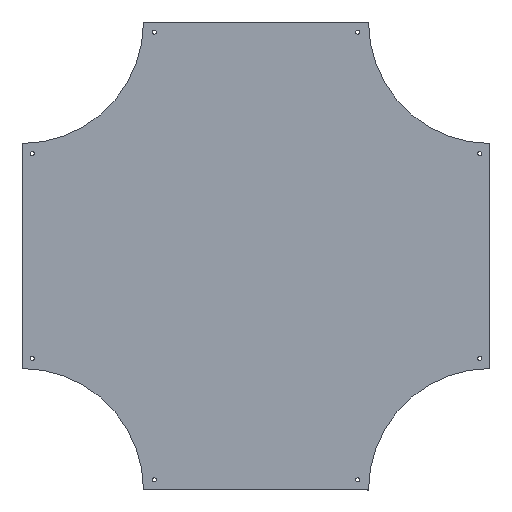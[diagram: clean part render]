
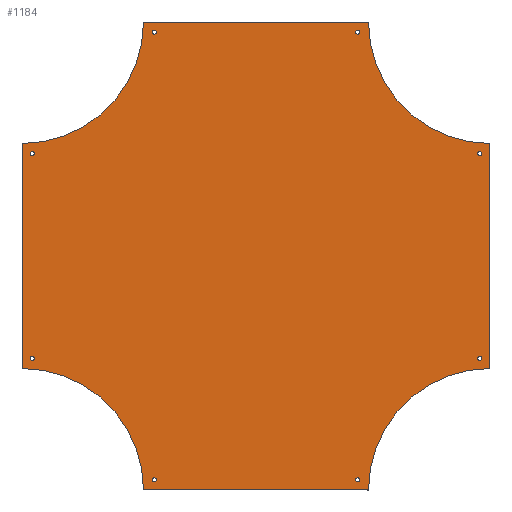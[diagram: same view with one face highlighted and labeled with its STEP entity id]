
A CAD part, top view. The second image highlights one B-rep face of the part: STEP entity #1184.
In plain terms, the highlighted planar face has unit normal (0, 0, 1).
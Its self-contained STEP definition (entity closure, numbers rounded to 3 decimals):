
#86=FACE_BOUND('',#177,.T.);
#87=FACE_BOUND('',#178,.T.);
#88=FACE_BOUND('',#179,.T.);
#89=FACE_BOUND('',#180,.T.);
#90=FACE_BOUND('',#181,.T.);
#91=FACE_BOUND('',#182,.T.);
#92=FACE_BOUND('',#183,.T.);
#93=FACE_BOUND('',#184,.T.);
#102=FACE_OUTER_BOUND('',#176,.T.);
#176=EDGE_LOOP('',(#810,#811,#812,#813,#814,#815,#816,#817));
#177=EDGE_LOOP('',(#818,#819));
#178=EDGE_LOOP('',(#820,#821));
#179=EDGE_LOOP('',(#822,#823));
#180=EDGE_LOOP('',(#824,#825));
#181=EDGE_LOOP('',(#826,#827));
#182=EDGE_LOOP('',(#828,#829));
#183=EDGE_LOOP('',(#830,#831));
#184=EDGE_LOOP('',(#832,#833));
#266=CIRCLE('',#1270,298.5);
#267=CIRCLE('',#1271,298.5);
#268=CIRCLE('',#1272,298.5);
#269=CIRCLE('',#1273,298.5);
#270=CIRCLE('',#1274,5.);
#271=CIRCLE('',#1275,5.);
#272=CIRCLE('',#1276,5.);
#273=CIRCLE('',#1277,5.);
#274=CIRCLE('',#1278,5.);
#275=CIRCLE('',#1279,5.);
#276=CIRCLE('',#1280,5.);
#277=CIRCLE('',#1281,5.);
#278=CIRCLE('',#1282,5.);
#279=CIRCLE('',#1283,5.);
#280=CIRCLE('',#1284,5.);
#281=CIRCLE('',#1285,5.);
#282=CIRCLE('',#1286,5.);
#283=CIRCLE('',#1287,5.);
#284=CIRCLE('',#1288,5.);
#285=CIRCLE('',#1289,5.);
#338=LINE('',#1839,#434);
#339=LINE('',#1843,#435);
#340=LINE('',#1847,#436);
#341=LINE('',#1851,#437);
#434=VECTOR('',#1430,304.8);
#435=VECTOR('',#1433,304.8);
#436=VECTOR('',#1436,304.8);
#437=VECTOR('',#1439,304.8);
#530=VERTEX_POINT('',#1837);
#531=VERTEX_POINT('',#1838);
#532=VERTEX_POINT('',#1840);
#533=VERTEX_POINT('',#1842);
#534=VERTEX_POINT('',#1844);
#535=VERTEX_POINT('',#1846);
#536=VERTEX_POINT('',#1848);
#537=VERTEX_POINT('',#1850);
#538=VERTEX_POINT('',#1853);
#539=VERTEX_POINT('',#1854);
#540=VERTEX_POINT('',#1857);
#541=VERTEX_POINT('',#1858);
#542=VERTEX_POINT('',#1861);
#543=VERTEX_POINT('',#1862);
#544=VERTEX_POINT('',#1865);
#545=VERTEX_POINT('',#1866);
#546=VERTEX_POINT('',#1869);
#547=VERTEX_POINT('',#1870);
#548=VERTEX_POINT('',#1873);
#549=VERTEX_POINT('',#1874);
#550=VERTEX_POINT('',#1877);
#551=VERTEX_POINT('',#1878);
#552=VERTEX_POINT('',#1881);
#553=VERTEX_POINT('',#1882);
#642=EDGE_CURVE('',#530,#531,#338,.T.);
#643=EDGE_CURVE('',#531,#532,#266,.T.);
#644=EDGE_CURVE('',#532,#533,#339,.T.);
#645=EDGE_CURVE('',#533,#534,#267,.T.);
#646=EDGE_CURVE('',#534,#535,#340,.T.);
#647=EDGE_CURVE('',#535,#536,#268,.T.);
#648=EDGE_CURVE('',#536,#537,#341,.T.);
#649=EDGE_CURVE('',#537,#530,#269,.T.);
#650=EDGE_CURVE('',#538,#539,#270,.T.);
#651=EDGE_CURVE('',#539,#538,#271,.T.);
#652=EDGE_CURVE('',#540,#541,#272,.T.);
#653=EDGE_CURVE('',#541,#540,#273,.T.);
#654=EDGE_CURVE('',#542,#543,#274,.T.);
#655=EDGE_CURVE('',#543,#542,#275,.T.);
#656=EDGE_CURVE('',#544,#545,#276,.T.);
#657=EDGE_CURVE('',#545,#544,#277,.T.);
#658=EDGE_CURVE('',#546,#547,#278,.T.);
#659=EDGE_CURVE('',#547,#546,#279,.T.);
#660=EDGE_CURVE('',#548,#549,#280,.T.);
#661=EDGE_CURVE('',#549,#548,#281,.T.);
#662=EDGE_CURVE('',#550,#551,#282,.T.);
#663=EDGE_CURVE('',#551,#550,#283,.T.);
#664=EDGE_CURVE('',#552,#553,#284,.T.);
#665=EDGE_CURVE('',#553,#552,#285,.T.);
#810=ORIENTED_EDGE('',*,*,#642,.T.);
#811=ORIENTED_EDGE('',*,*,#643,.T.);
#812=ORIENTED_EDGE('',*,*,#644,.T.);
#813=ORIENTED_EDGE('',*,*,#645,.T.);
#814=ORIENTED_EDGE('',*,*,#646,.T.);
#815=ORIENTED_EDGE('',*,*,#647,.T.);
#816=ORIENTED_EDGE('',*,*,#648,.T.);
#817=ORIENTED_EDGE('',*,*,#649,.T.);
#818=ORIENTED_EDGE('',*,*,#650,.T.);
#819=ORIENTED_EDGE('',*,*,#651,.T.);
#820=ORIENTED_EDGE('',*,*,#652,.T.);
#821=ORIENTED_EDGE('',*,*,#653,.T.);
#822=ORIENTED_EDGE('',*,*,#654,.T.);
#823=ORIENTED_EDGE('',*,*,#655,.T.);
#824=ORIENTED_EDGE('',*,*,#656,.T.);
#825=ORIENTED_EDGE('',*,*,#657,.T.);
#826=ORIENTED_EDGE('',*,*,#658,.T.);
#827=ORIENTED_EDGE('',*,*,#659,.T.);
#828=ORIENTED_EDGE('',*,*,#660,.T.);
#829=ORIENTED_EDGE('',*,*,#661,.T.);
#830=ORIENTED_EDGE('',*,*,#662,.T.);
#831=ORIENTED_EDGE('',*,*,#663,.T.);
#832=ORIENTED_EDGE('',*,*,#664,.T.);
#833=ORIENTED_EDGE('',*,*,#665,.T.);
#1146=PLANE('',#1269);
#1184=ADVANCED_FACE('',(#102,#86,#87,#88,#89,#90,#91,#92,#93),#1146,.T.);
#1269=AXIS2_PLACEMENT_3D('',#1836,#1428,#1429);
#1270=AXIS2_PLACEMENT_3D('',#1841,#1431,#1432);
#1271=AXIS2_PLACEMENT_3D('',#1845,#1434,#1435);
#1272=AXIS2_PLACEMENT_3D('',#1849,#1437,#1438);
#1273=AXIS2_PLACEMENT_3D('',#1852,#1440,#1441);
#1274=AXIS2_PLACEMENT_3D('',#1855,#1442,#1443);
#1275=AXIS2_PLACEMENT_3D('',#1856,#1444,#1445);
#1276=AXIS2_PLACEMENT_3D('',#1859,#1446,#1447);
#1277=AXIS2_PLACEMENT_3D('',#1860,#1448,#1449);
#1278=AXIS2_PLACEMENT_3D('',#1863,#1450,#1451);
#1279=AXIS2_PLACEMENT_3D('',#1864,#1452,#1453);
#1280=AXIS2_PLACEMENT_3D('',#1867,#1454,#1455);
#1281=AXIS2_PLACEMENT_3D('',#1868,#1456,#1457);
#1282=AXIS2_PLACEMENT_3D('',#1871,#1458,#1459);
#1283=AXIS2_PLACEMENT_3D('',#1872,#1460,#1461);
#1284=AXIS2_PLACEMENT_3D('',#1875,#1462,#1463);
#1285=AXIS2_PLACEMENT_3D('',#1876,#1464,#1465);
#1286=AXIS2_PLACEMENT_3D('',#1879,#1466,#1467);
#1287=AXIS2_PLACEMENT_3D('',#1880,#1468,#1469);
#1288=AXIS2_PLACEMENT_3D('',#1883,#1470,#1471);
#1289=AXIS2_PLACEMENT_3D('',#1884,#1472,#1473);
#1428=DIRECTION('center_axis',(0.,0.,1.));
#1429=DIRECTION('ref_axis',(0.,-1.,0.));
#1430=DIRECTION('',(0.,1.,0.));
#1431=DIRECTION('center_axis',(0.,0.,-1.));
#1432=DIRECTION('ref_axis',(1.,0.,0.));
#1433=DIRECTION('',(-1.,0.,0.));
#1434=DIRECTION('center_axis',(0.,0.,-1.));
#1435=DIRECTION('ref_axis',(1.,0.,0.));
#1436=DIRECTION('',(0.,-1.,0.));
#1437=DIRECTION('center_axis',(0.,0.,-1.));
#1438=DIRECTION('ref_axis',(1.,0.,0.));
#1439=DIRECTION('',(1.,0.,0.));
#1440=DIRECTION('center_axis',(0.,0.,-1.));
#1441=DIRECTION('ref_axis',(1.,0.,0.));
#1442=DIRECTION('center_axis',(0.,0.,-1.));
#1443=DIRECTION('ref_axis',(1.,0.,0.));
#1444=DIRECTION('center_axis',(0.,0.,-1.));
#1445=DIRECTION('ref_axis',(1.,0.,0.));
#1446=DIRECTION('center_axis',(0.,0.,-1.));
#1447=DIRECTION('ref_axis',(1.,0.,0.));
#1448=DIRECTION('center_axis',(0.,0.,-1.));
#1449=DIRECTION('ref_axis',(1.,0.,0.));
#1450=DIRECTION('center_axis',(0.,0.,-1.));
#1451=DIRECTION('ref_axis',(1.,0.,0.));
#1452=DIRECTION('center_axis',(0.,0.,-1.));
#1453=DIRECTION('ref_axis',(1.,0.,0.));
#1454=DIRECTION('center_axis',(0.,0.,-1.));
#1455=DIRECTION('ref_axis',(1.,0.,0.));
#1456=DIRECTION('center_axis',(0.,0.,-1.));
#1457=DIRECTION('ref_axis',(1.,0.,0.));
#1458=DIRECTION('center_axis',(0.,0.,-1.));
#1459=DIRECTION('ref_axis',(1.,0.,0.));
#1460=DIRECTION('center_axis',(0.,0.,-1.));
#1461=DIRECTION('ref_axis',(1.,0.,0.));
#1462=DIRECTION('center_axis',(0.,0.,-1.));
#1463=DIRECTION('ref_axis',(1.,0.,0.));
#1464=DIRECTION('center_axis',(0.,0.,-1.));
#1465=DIRECTION('ref_axis',(1.,0.,0.));
#1466=DIRECTION('center_axis',(0.,0.,-1.));
#1467=DIRECTION('ref_axis',(1.,0.,0.));
#1468=DIRECTION('center_axis',(0.,0.,-1.));
#1469=DIRECTION('ref_axis',(1.,0.,0.));
#1470=DIRECTION('center_axis',(0.,0.,-1.));
#1471=DIRECTION('ref_axis',(1.,0.,0.));
#1472=DIRECTION('center_axis',(0.,0.,-1.));
#1473=DIRECTION('ref_axis',(1.,0.,0.));
#1836=CARTESIAN_POINT('Origin',(-276.5,-575.,1.5));
#1837=CARTESIAN_POINT('',(575.,-276.5,1.5));
#1838=CARTESIAN_POINT('',(575.,276.5,1.5));
#1839=CARTESIAN_POINT('',(575.,-276.5,1.5));
#1840=CARTESIAN_POINT('',(276.5,575.,1.5));
#1841=CARTESIAN_POINT('Origin',(575.,575.,1.5));
#1842=CARTESIAN_POINT('',(-276.5,575.,1.5));
#1843=CARTESIAN_POINT('',(276.5,575.,1.5));
#1844=CARTESIAN_POINT('',(-575.,276.5,1.5));
#1845=CARTESIAN_POINT('Origin',(-575.,575.,1.5));
#1846=CARTESIAN_POINT('',(-575.,-276.5,1.5));
#1847=CARTESIAN_POINT('',(-575.,276.5,1.5));
#1848=CARTESIAN_POINT('',(-276.5,-575.,1.5));
#1849=CARTESIAN_POINT('Origin',(-575.,-575.,1.5));
#1850=CARTESIAN_POINT('',(276.5,-575.,1.5));
#1851=CARTESIAN_POINT('',(-276.5,-575.,1.5));
#1852=CARTESIAN_POINT('Origin',(575.,-575.,1.5));
#1853=CARTESIAN_POINT('',(-545.,251.5,1.5));
#1854=CARTESIAN_POINT('',(-555.,251.5,1.5));
#1855=CARTESIAN_POINT('Origin',(-550.,251.5,1.5));
#1856=CARTESIAN_POINT('Origin',(-550.,251.5,1.5));
#1857=CARTESIAN_POINT('',(-545.,-251.5,1.5));
#1858=CARTESIAN_POINT('',(-555.,-251.5,1.5));
#1859=CARTESIAN_POINT('Origin',(-550.,-251.5,1.5));
#1860=CARTESIAN_POINT('Origin',(-550.,-251.5,1.5));
#1861=CARTESIAN_POINT('',(255.,550.,1.5));
#1862=CARTESIAN_POINT('',(245.,550.,1.5));
#1863=CARTESIAN_POINT('Origin',(250.,550.,1.5));
#1864=CARTESIAN_POINT('Origin',(250.,550.,1.5));
#1865=CARTESIAN_POINT('',(-245.,550.,1.5));
#1866=CARTESIAN_POINT('',(-255.,550.,1.5));
#1867=CARTESIAN_POINT('Origin',(-250.,550.,1.5));
#1868=CARTESIAN_POINT('Origin',(-250.,550.,1.5));
#1869=CARTESIAN_POINT('',(555.,251.5,1.5));
#1870=CARTESIAN_POINT('',(545.,251.5,1.5));
#1871=CARTESIAN_POINT('Origin',(550.,251.5,1.5));
#1872=CARTESIAN_POINT('Origin',(550.,251.5,1.5));
#1873=CARTESIAN_POINT('',(555.,-251.5,1.5));
#1874=CARTESIAN_POINT('',(545.,-251.5,1.5));
#1875=CARTESIAN_POINT('Origin',(550.,-251.5,1.5));
#1876=CARTESIAN_POINT('Origin',(550.,-251.5,1.5));
#1877=CARTESIAN_POINT('',(-245.,-550.,1.5));
#1878=CARTESIAN_POINT('',(-255.,-550.,1.5));
#1879=CARTESIAN_POINT('Origin',(-250.,-550.,1.5));
#1880=CARTESIAN_POINT('Origin',(-250.,-550.,1.5));
#1881=CARTESIAN_POINT('',(255.,-550.,1.5));
#1882=CARTESIAN_POINT('',(245.,-550.,1.5));
#1883=CARTESIAN_POINT('Origin',(250.,-550.,1.5));
#1884=CARTESIAN_POINT('Origin',(250.,-550.,1.5));
